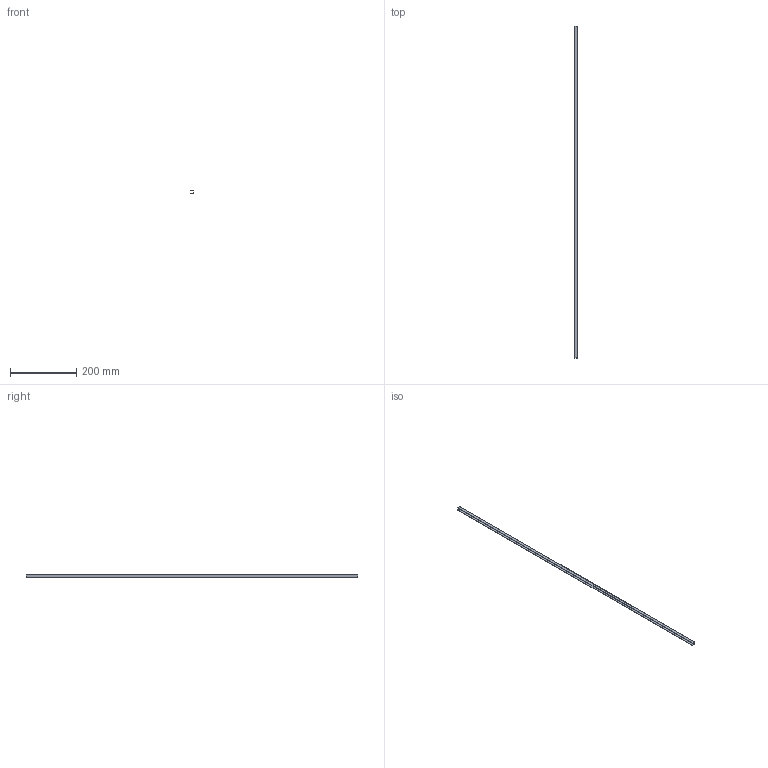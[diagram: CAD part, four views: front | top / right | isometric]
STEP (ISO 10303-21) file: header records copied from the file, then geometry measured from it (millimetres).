
FILE_DESCRIPTION(/* description */ (''),/* implementation_level */ '2;1');
FILE_NAME(/* name */ 'Q503-K-1000.step',/* time_stamp */ '2026-04-10T16:22:31+09:00',/* author */ (''),/* organization */ (''),/* preprocessor_version */ 'ST-DEVELOPER v20.1',/* originating_system */ 'Autodesk Translation Framework v14.24.0.0',/* authorisation */ '');
FILE_SCHEMA (('AUTOMOTIVE_DESIGN { 1 0 10303 214 3 1 1 }'));
Length unit declared in the file: millimetre
Products named in the file (1): 2026-04-10-15-14-39-843
Bounding box: 9 x 1000 x 9 mm (x, y, z)
Volume: 25000 mm3; surface area: 52050 mm2
Topology: 1 solids, 1 shells, 10 faces, 24 edges, 16 vertices
Faces by surface type: plane 10
Entity records: 321 total; most frequent: CARTESIAN_POINT 51, ORIENTED_EDGE 48, DIRECTION 46, LINE 24, VECTOR 24, EDGE_CURVE 24, VERTEX_POINT 16, AXIS2_PLACEMENT_3D 11
